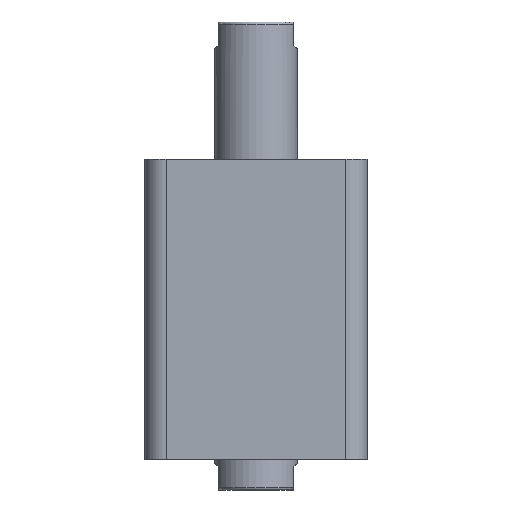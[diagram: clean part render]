
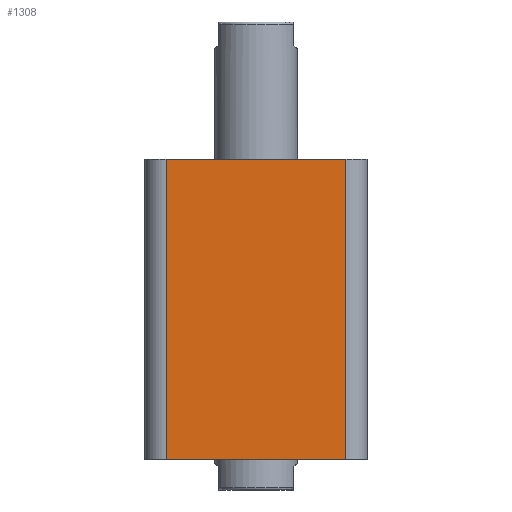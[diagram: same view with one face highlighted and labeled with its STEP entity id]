
A CAD part, front view. The second image highlights one B-rep face of the part: STEP entity #1308.
In plain terms, the highlighted planar face has unit normal (0, -1, 0).
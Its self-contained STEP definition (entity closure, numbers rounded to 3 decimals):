
#664 = VERTEX_POINT ( 'NONE', #2361 ) ;
#665 = VERTEX_POINT ( 'NONE', #2362 ) ;
#697 = EDGE_LOOP ( 'NONE', ( #876, #877, #878, #879 ) ) ;
#876 = ORIENTED_EDGE ( 'NONE', *, *, #2894, .F. ) ;
#877 = ORIENTED_EDGE ( 'NONE', *, *, #2893, .T. ) ;
#878 = ORIENTED_EDGE ( 'NONE', *, *, #2892, .T. ) ;
#879 = ORIENTED_EDGE ( 'NONE', *, *, #2891, .T. ) ;
#1308 = ADVANCED_FACE ( 'NONE', ( #1935 ), #2697, .F. ) ;
#1935 = FACE_OUTER_BOUND ( 'NONE', #697, .T. ) ;
#2001 = LINE ( 'NONE', #2847, #2008 ) ;
#2004 = LINE ( 'NONE', #2841, #2006 ) ;
#2006 = VECTOR ( 'NONE', #2842, 1000. ) ;
#2007 = LINE ( 'NONE', #2852, #2010 ) ;
#2008 = VECTOR ( 'NONE', #2851, 1000. ) ;
#2009 = LINE ( 'NONE', #2854, #2012 ) ;
#2010 = VECTOR ( 'NONE', #2853, 1000. ) ;
#2012 = VECTOR ( 'NONE', #2855, 1000. ) ;
#2317 = VERTEX_POINT ( 'NONE', #2789 ) ;
#2339 = VERTEX_POINT ( 'NONE', #2814 ) ;
#2361 = CARTESIAN_POINT ( 'NONE',  ( -38., -47., 0. ) ) ;
#2362 = CARTESIAN_POINT ( 'NONE',  ( 38., -47., 0. ) ) ;
#2695 = CARTESIAN_POINT ( 'NONE',  ( -47., -47., 127. ) ) ;
#2697 = PLANE ( 'NONE',  #3183 ) ;
#2699 = DIRECTION ( 'NONE',  ( 0., 1., 0. ) ) ;
#2700 = DIRECTION ( 'NONE',  ( 0., 0., 1. ) ) ;
#2789 = CARTESIAN_POINT ( 'NONE',  ( -38., -47., 127. ) ) ;
#2814 = CARTESIAN_POINT ( 'NONE',  ( 38., -47., 127. ) ) ;
#2841 = CARTESIAN_POINT ( 'NONE',  ( 38., -47., 127. ) ) ;
#2842 = DIRECTION ( 'NONE',  ( 0., 0., 1. ) ) ;
#2847 = CARTESIAN_POINT ( 'NONE',  ( -47., -47., 0. ) ) ;
#2851 = DIRECTION ( 'NONE',  ( 1., 0., 0. ) ) ;
#2852 = CARTESIAN_POINT ( 'NONE',  ( -38., -47., 127. ) ) ;
#2853 = DIRECTION ( 'NONE',  ( 0., 0., -1. ) ) ;
#2854 = CARTESIAN_POINT ( 'NONE',  ( -47., -47., 127. ) ) ;
#2855 = DIRECTION ( 'NONE',  ( 1., 0., 0. ) ) ;
#2891 = EDGE_CURVE ( 'NONE', #665, #2339, #2004, .T. ) ;
#2892 = EDGE_CURVE ( 'NONE', #664, #665, #2001, .T. ) ;
#2893 = EDGE_CURVE ( 'NONE', #2317, #664, #2007, .T. ) ;
#2894 = EDGE_CURVE ( 'NONE', #2317, #2339, #2009, .T. ) ;
#3183 = AXIS2_PLACEMENT_3D ( 'NONE', #2695, #2699, #2700 ) ;
